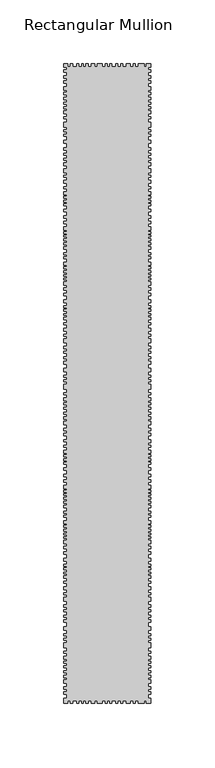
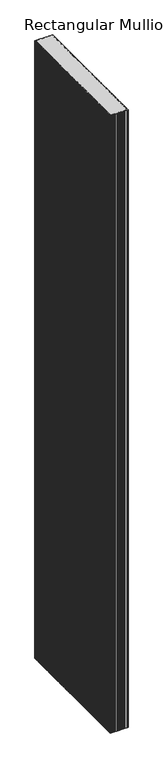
"""IFC4 building model written with IfcOpenShell, lengths in millimetres: member geometry, Rectangular Mullion : DucoSun Cubic Design louvre 500."""

from ifc_helpers import new_model, si_unit, frame, origin, place, context, project, spatial, polyline, outline, extrude, source, transform, mapped, element, save


def rectangular_mullion_8edc9b5f(model_context):
    return source(origin(), model_context, "Body", "SweptSolid", [
        extrude(outline(polyline([(34.0, 497.3782451), (32.0, 497.3782451), (32.0, 495.4241521), (34.0, 495.4241521), (34.0, 493.6532553), (32.0, 493.6532553), (32.0, 490.9460223), (34.0, 490.9460223), (34.0, 488.9105087), (32.0, 488.9105087), (32.0, 486.7121541), (34.0, 486.7121541), (34.0, 485.0023227), (32.0, 485.0023227), (32.0, 482.3561551), (34.0, 482.3561551), (34.0, 479.3843053), (32.0, 479.3843053), (32.0, 477.8917893), (34.0, 477.8917893), (34.0, 475.8425117), (32.0, 475.8425117), (32.0, 473.8680636), (34.0, 473.8680636), (34.0, 472.1582322), (32.0, 472.1582322), (32.0, 470.0820083), (34.0, 470.0820083), (34.0, 468.3111116), (32.0, 468.3111116), (32.0, 466.4995045), (34.0, 466.4995045), (34.0, 465.0713495), (32.0, 465.0713495), (32.0, 463.4577392), (34.0, 463.4577392), (34.0, 461.0328231), (32.0, 461.0328231), (32.0, 458.5725067), (34.0, 458.5725067), (34.0, 457.0325964), (32.0, 457.0325964), (32.0, 454.5014796), (34.0, 454.5014796), (34.0, 450.4127524), (32.0, 450.4127524), (32.0, 448.4126391), (34.0, 448.4126391), (34.0, 446.8373286), (32.0, 446.8373286), (32.0, 444.9965163), (34.0, 444.9965163), (34.0, 443.3504053), (32.0, 443.3504053), (32.0, 440.3767855), (34.0, 440.3767855), (34.0, 437.9545244), (32.0, 437.9545244), (32.0, 434.5552168), (34.0, 434.5552168), (34.0, 432.5197032), (32.0, 432.5197032), (32.0, 430.239928), (34.0, 430.239928), (34.0, 428.6929377), (32.0, 428.6929377), (32.0, 426.4335177), (34.0, 426.4335177), (34.0, 424.5608452), (32.0, 424.5608452), (32.0, 422.6271073), (34.0, 422.6271073), (34.0, 420.5508835), (32.0, 420.5508835), (32.0, 418.0064916), (34.0, 418.0064916), (34.0, 414.9328661), (32.0, 414.9328661), (32.0, 412.9177077), (34.0, 412.9177077), (34.0, 411.4114277), (32.0, 411.4114277), (32.0, 408.9688114), (34.0, 408.9688114), (34.0, 406.7118273), (32.0, 406.7118273), (32.0, 403.8852623), (34.0, 403.8852623), (34.0, 402.4316003), (32.0, 402.4316003), (32.0, 399.9011516), (34.0, 399.9011516), (34.0, 397.8552569), (32.0, 397.8552569), (32.0, 396.6169522), (34.0, 396.6169522), (34.0, 395.0825312), (32.0, 395.0825312), (32.0, 393.4673512), (34.0, 393.4673512), (34.0, 392.0675286), (32.0, 392.0675286), (32.0, 390.5869469), (34.0, 390.5869469), (34.0, 389.1602046), (32.0, 389.1602046), (32.0, 386.3310055), (34.0, 386.3310055), (34.0, 384.2608252), (32.0, 384.2608252), (32.0, 381.1919832), (34.0, 381.1919832), (34.0, 379.2537672), (32.0, 379.2537672), (32.0, 376.9360418), (34.0, 376.9360418), (34.0, 375.0004598), (32.0, 375.0004598), (32.0, 372.9007258), (34.0, 372.9007258), (34.0, 370.1010805), (32.0, 370.1010805), (32.0, 368.8089365), (34.0, 368.8089365), (34.0, 367.3014351), (32.0, 367.3014351), (32.0, 366.0362108), (34.0, 366.0362108), (34.0, 365.0401831), (32.0, 365.0401831), (32.0, 363.2096458), (34.0, 363.2096458), (34.0, 361.6483051), (32.0, 361.6483051), (32.0, 360.1408038), (34.0, 360.1408038), (34.0, 358.6063828), (32.0, 358.6063828), (32.0, 357.0719618), (34.0, 357.0719618), (34.0, 355.0799064), (32.0, 355.0799064), (32.0, 352.3762692), (34.0, 352.3762692), (34.0, 350.8903036), (32.0, 350.8903036), (32.0, 349.1257194), (34.0, 349.1257194), (34.0, 347.6087962), (32.0, 347.6087962), (32.0, 344.8535683), (34.0, 344.8535683), (34.0, 342.7484504), (32.0, 342.7484504), (32.0, 341.4172729), (34.0, 341.4172729), (34.0, 339.9622649), (32.0, 339.9622649), (32.0, 338.3524688), (34.0, 338.3524688), (34.0, 336.8355456), (32.0, 336.8355456), (32.0, 335.1947919), (34.0, 335.1947919), (34.0, 333.9255296), (32.0, 333.9255296), (32.0, 332.5014792), (34.0, 332.5014792), (34.0, 331.1083865), (32.0, 331.1083865), (32.0, 329.6843361), (34.0, 329.6843361), (34.0, 327.0529387), (32.0, 327.0529387), (32.0, 324.9787784), (34.0, 324.9787784), (34.0, 323.0284485), (32.0, 323.0284485), (32.0, 320.7995001), (34.0, 320.7995001), (34.0, 318.8182126), (32.0, 318.8182126), (32.0, 315.6914933), (34.0, 315.6914933), (34.0, 313.4935025), (32.0, 313.4935025), (32.0, 310.954978), (34.0, 310.954978), (34.0, 309.4070971), (32.0, 309.4070971), (32.0, 308.1378348), (34.0, 308.1378348), (34.0, 306.4970812), (32.0, 306.4970812), (32.0, 304.8253698), (34.0, 304.8253698), (34.0, 303.3394042), (32.0, 303.3394042), (32.0, 302.0391843), (34.0, 302.0391843), (34.0, 300.0578969), (32.0, 300.0578969), (32.0, 297.6741604), (34.0, 297.6741604), (34.0, 296.0953219), (32.0, 296.0953219), (32.0, 293.3091364), (34.0, 293.3091364), (34.0, 291.0182728), (32.0, 291.0182728), (32.0, 288.572621), (34.0, 288.572621), (34.0, 287.1485707), (32.0, 287.1485707), (32.0, 285.0124951), (34.0, 285.0124951), (34.0, 282.1643944), (32.0, 282.1643944), (32.0, 279.3782089), (34.0, 279.3782089), (34.0, 277.427879), (32.0, 277.427879), (32.0, 275.4156339), (34.0, 275.4156339), (34.0, 273.6510498), (32.0, 273.6510498), (32.0, 271.1744404), (34.0, 271.1744404), (34.0, 269.6884748), (32.0, 269.6884748), (32.0, 267.5523993), (34.0, 267.5523993), (34.0, 265.4163237), (32.0, 265.4163237), (32.0, 262.1967316), (34.0, 262.1967316), (34.0, 259.5343765), (32.0, 259.5343765), (32.0, 256.7791486), (34.0, 256.7791486), (34.0, 255.0764797), (32.0, 255.0764797), (32.0, 252.9404041), (34.0, 252.9404041), (34.0, 251.6092266), (32.0, 251.6092266), (32.0, 249.5660239), (34.0, 249.5660239), (34.0, 245.512038), (32.0, 245.512038), (32.0, 243.0030092), (34.0, 243.0030092), (34.0, 241.3312979), (32.0, 241.3312979), (32.0, 239.0404342), (34.0, 239.0404342), (34.0, 236.5638249), (32.0, 236.5638249), (32.0, 235.015944), (34.0, 235.015944), (34.0, 233.5609361), (32.0, 233.5609361), (32.0, 231.5796486), (34.0, 231.5796486), (34.0, 230.0627254), (32.0, 230.0627254), (32.0, 227.8337769), (34.0, 227.8337769), (34.0, 226.1620656), (32.0, 226.1620656), (32.0, 224.0259901), (34.0, 224.0259901), (34.0, 222.0756602), (32.0, 222.0756602), (32.0, 220.6516099), (34.0, 220.6516099), (34.0, 217.7415939), (32.0, 217.7415939), (32.0, 215.2030693), (34.0, 215.2030693), (34.0, 213.1908242), (32.0, 213.1908242), (32.0, 211.2404944), (34.0, 211.2404944), (34.0, 209.1353764), (32.0, 209.1353764), (32.0, 206.2563181), (34.0, 206.2563181), (34.0, 203.7186411), (32.0, 203.7186411), (32.0, 201.7889994), (34.0, 201.7889994), (34.0, 200.3353374), (32.0, 200.3353374), (32.0, 197.8048887), (34.0, 197.8048887), (34.0, 195.758994), (32.0, 195.758994), (32.0, 194.5206893), (34.0, 194.5206893), (34.0, 192.9862683), (32.0, 192.9862683), (32.0, 191.3710883), (34.0, 191.3710883), (34.0, 189.9712657), (32.0, 189.9712657), (32.0, 188.490684), (34.0, 188.490684), (34.0, 187.0639417), (32.0, 187.0639417), (32.0, 184.2347426), (34.0, 184.2347426), (34.0, 182.1645623), (32.0, 182.1645623), (32.0, 179.0957203), (34.0, 179.0957203), (34.0, 177.1575043), (32.0, 177.1575043), (32.0, 174.8397789), (34.0, 174.8397789), (34.0, 172.9041969), (32.0, 172.9041969), (32.0, 170.8044629), (34.0, 170.8044629), (34.0, 168.0048176), (32.0, 168.0048176), (32.0, 166.7126736), (34.0, 166.7126736), (34.0, 165.2051722), (32.0, 165.2051722), (32.0, 163.9399479), (34.0, 163.9399479), (34.0, 162.9439202), (32.0, 162.9439202), (32.0, 161.1133829), (34.0, 161.1133829), (34.0, 159.5520422), (32.0, 159.5520422), (32.0, 158.0445409), (34.0, 158.0445409), (34.0, 156.5101199), (32.0, 156.5101199), (32.0, 154.9756989), (34.0, 154.9756989), (34.0, 152.9836435), (32.0, 152.9836435), (32.0, 150.2800063), (34.0, 150.2800063), (34.0, 148.7940407), (32.0, 148.7940407), (32.0, 147.0294565), (34.0, 147.0294565), (34.0, 145.5125333), (32.0, 145.5125333), (32.0, 142.7573054), (34.0, 142.7573054), (34.0, 140.6521875), (32.0, 140.6521875), (32.0, 139.32101), (34.0, 139.32101), (34.0, 137.866002), (32.0, 137.866002), (32.0, 136.2562059), (34.0, 136.2562059), (34.0, 134.7392827), (32.0, 134.7392827), (32.0, 133.098529), (34.0, 133.098529), (34.0, 131.8292667), (32.0, 131.8292667), (32.0, 130.4052163), (34.0, 130.4052163), (34.0, 129.0121236), (32.0, 129.0121236), (32.0, 127.5880732), (34.0, 127.5880732), (34.0, 124.9566758), (32.0, 124.9566758), (32.0, 122.8825155), (34.0, 122.8825155), (34.0, 120.9321856), (32.0, 120.9321856), (32.0, 118.7032372), (34.0, 118.7032372), (34.0, 116.7219497), (32.0, 116.7219497), (32.0, 113.5952304), (34.0, 113.5952304), (34.0, 111.3972396), (32.0, 111.3972396), (32.0, 108.8587151), (34.0, 108.8587151), (34.0, 107.3108342), (32.0, 107.3108342), (32.0, 106.0415719), (34.0, 106.0415719), (34.0, 104.4008183), (32.0, 104.4008183), (32.0, 102.7291069), (34.0, 102.7291069), (34.0, 101.2431413), (32.0, 101.2431413), (32.0, 99.9429214), (34.0, 99.9429214), (34.0, 97.961634), (32.0, 97.961634), (32.0, 95.5778975), (34.0, 95.5778975), (34.0, 93.999059), (32.0, 93.999059), (32.0, 91.2128735), (34.0, 91.2128735), (34.0, 88.9220099), (32.0, 88.9220099), (32.0, 86.4763581), (34.0, 86.4763581), (34.0, 85.0523078), (32.0, 85.0523078), (32.0, 82.9162322), (34.0, 82.9162322), (34.0, 80.0681315), (32.0, 80.0681315), (32.0, 77.281946), (34.0, 77.281946), (34.0, 75.3316161), (32.0, 75.3316161), (32.0, 73.319371), (34.0, 73.319371), (34.0, 71.5547869), (32.0, 71.5547869), (32.0, 69.0781775), (34.0, 69.0781775), (34.0, 67.5922119), (32.0, 67.5922119), (32.0, 65.4561364), (34.0, 65.4561364), (34.0, 63.3200608), (32.0, 63.3200608), (32.0, 60.1004687), (34.0, 60.1004687), (34.0, 57.4381136), (32.0, 57.4381136), (32.0, 54.6828857), (34.0, 54.6828857), (34.0, 52.9802168), (32.0, 52.9802168), (32.0, 50.8441412), (34.0, 50.8441412), (34.0, 49.5129637), (32.0, 49.5129637), (32.0, 47.469761), (34.0, 47.469761), (34.0, 43.4157751), (32.0, 43.4157751), (32.0, 40.9067463), (34.0, 40.9067463), (34.0, 39.235035), (32.0, 39.235035), (32.0, 36.9441713), (34.0, 36.9441713), (34.0, 34.467562), (32.0, 34.467562), (32.0, 32.9196811), (34.0, 32.9196811), (34.0, 31.4646731), (32.0, 31.4646731), (32.0, 29.4833857), (34.0, 29.4833857), (34.0, 27.9664625), (32.0, 27.9664625), (32.0, 25.737514), (34.0, 25.737514), (34.0, 24.0658027), (32.0, 24.0658027), (32.0, 21.9297272), (34.0, 21.9297272), (34.0, 19.9793973), (32.0, 19.9793973), (32.0, 18.555347), (34.0, 18.555347), (34.0, 15.645331), (32.0, 15.645331), (32.0, 13.1068064), (34.0, 13.1068064), (34.0, 11.0945613), (32.0, 11.0945613), (32.0, 9.1442315), (34.0, 9.1442315), (34.0, 7.0391135), (32.0, 7.0391135), (32.0, 4.0), (34.0, 4.0), (34.0, 0.0), (30.4544414, 0.0), (30.4544414, 2.0), (28.627942, 2.0), (28.627942, 0.0), (23.9842994, 0.0), (23.9842994, 2.0), (21.8172663, 2.0), (21.8172663, 0.0), (20.3003431, 0.0), (20.3003431, 2.0), (17.9475642, 2.0), (17.9475642, 0.0), (14.8827601, 0.0), (14.8827601, 2.0), (12.0965746, 2.0), (12.0965746, 0.0), (10.3939057, 0.0), (10.3939057, 2.0), (8.0101692, 2.0), (8.0101692, 0.0), (6.5242036, 0.0), (6.5242036, 2.0), (3.4884678, 2.0), (3.4884678, 0.0), (1.7094289, 0.0), (1.7094289, 2.0), (0.0, 2.0), (0.0, 0.0), (-1.8486488, 0.0), (-1.8486488, 2.0), (-4.2128978, 2.0), (-4.2128978, 0.0), (-7.9816511, 0.0), (-7.9816511, 2.0), (-10.0415908, 2.0), (-10.0415908, 0.0), (-12.7335575, 0.0), (-12.7335575, 2.0), (-15.0041729, 2.0), (-15.0041729, 0.0), (-16.8768453, 0.0), (-16.8768453, 2.0), (-18.9367851, 2.0), (-18.9367851, 0.0), (-20.2710642, 0.0), (-20.2710642, 2.0), (-22.3075955, 2.0), (-22.3075955, 0.0), (-23.8993671, 0.0), (-23.8993671, 2.0), (-26.9658683, 2.0), (-26.9658683, 0.0), (-28.9321744, 0.0), (-28.9321744, 2.0), (-30.8750721, 2.0), (-30.8750721, 0.0), (-34.0, 0.0), (-34.0, 4.0), (-32.0, 4.0), (-32.0, 7.0391135), (-34.0, 7.0391135), (-34.0, 9.1442315), (-32.0, 9.1442315), (-32.0, 11.0945613), (-34.0, 11.0945613), (-34.0, 13.1068064), (-32.0, 13.1068064), (-32.0, 15.645331), (-34.0, 15.645331), (-34.0, 18.555347), (-32.0, 18.555347), (-32.0, 19.9793973), (-34.0, 19.9793973), (-34.0, 21.9297272), (-32.0, 21.9297272), (-32.0, 24.0658027), (-34.0, 24.0658027), (-34.0, 25.737514), (-32.0, 25.737514), (-32.0, 27.9664625), (-34.0, 27.9664625), (-34.0, 29.4833857), (-32.0, 29.4833857), (-32.0, 31.4646731), (-34.0, 31.4646731), (-34.0, 32.9196811), (-32.0, 32.9196811), (-32.0, 34.467562), (-34.0, 34.467562), (-34.0, 36.9441713), (-32.0, 36.9441713), (-32.0, 39.235035), (-34.0, 39.235035), (-34.0, 40.9067463), (-32.0, 40.9067463), (-32.0, 43.4157751), (-34.0, 43.4157751), (-34.0, 47.469761), (-32.0, 47.469761), (-32.0, 49.5129637), (-34.0, 49.5129637), (-34.0, 50.8441412), (-32.0, 50.8441412), (-32.0, 52.9802168), (-34.0, 52.9802168), (-34.0, 54.6828857), (-32.0, 54.6828857), (-32.0, 57.4381136), (-34.0, 57.4381136), (-34.0, 60.1004687), (-32.0, 60.1004687), (-32.0, 63.3200608), (-34.0, 63.3200608), (-34.0, 65.4561364), (-32.0, 65.4561364), (-32.0, 67.5922119), (-34.0, 67.5922119), (-34.0, 69.0781775), (-32.0, 69.0781775), (-32.0, 71.5547869), (-34.0, 71.5547869), (-34.0, 73.319371), (-32.0, 73.319371), (-32.0, 75.3316161), (-34.0, 75.3316161), (-34.0, 77.281946), (-32.0, 77.281946), (-32.0, 80.0681315), (-34.0, 80.0681315), (-34.0, 82.9162322), (-32.0, 82.9162322), (-32.0, 85.0523078), (-34.0, 85.0523078), (-34.0, 86.4763581), (-32.0, 86.4763581), (-32.0, 88.9220099), (-34.0, 88.9220099), (-34.0, 91.2128735), (-32.0, 91.2128735), (-32.0, 93.999059), (-34.0, 93.999059), (-34.0, 95.5778975), (-32.0, 95.5778975), (-32.0, 97.961634), (-34.0, 97.961634), (-34.0, 99.9429214), (-32.0, 99.9429214), (-32.0, 101.2431413), (-34.0, 101.2431413), (-34.0, 102.7291069), (-32.0, 102.7291069), (-32.0, 104.4008183), (-34.0, 104.4008183), (-34.0, 106.0415719), (-32.0, 106.0415719), (-32.0, 107.3108342), (-34.0, 107.3108342), (-34.0, 108.8587151), (-32.0, 108.8587151), (-32.0, 111.3972396), (-34.0, 111.3972396), (-34.0, 113.5952304), (-32.0, 113.5952304), (-32.0, 116.7219497), (-34.0, 116.7219497), (-34.0, 118.7032372), (-32.0, 118.7032372), (-32.0, 120.9321856), (-34.0, 120.9321856), (-34.0, 122.8825155), (-32.0, 122.8825155), (-32.0, 124.9566758), (-34.0, 124.9566758), (-34.0, 127.5880732), (-32.0, 127.5880732), (-32.0, 129.0121236), (-34.0, 129.0121236), (-34.0, 130.4052163), (-32.0, 130.4052163), (-32.0, 131.8292667), (-34.0, 131.8292667), (-34.0, 133.098529), (-32.0, 133.098529), (-32.0, 134.7392827), (-34.0, 134.7392827), (-34.0, 136.2562059), (-32.0, 136.2562059), (-32.0, 137.866002), (-34.0, 137.866002), (-34.0, 139.32101), (-32.0, 139.32101), (-32.0, 140.6521875), (-34.0, 140.6521875), (-34.0, 142.7573054), (-32.0, 142.7573054), (-32.0, 145.5125333), (-34.0, 145.5125333), (-34.0, 147.0294565), (-32.0, 147.0294565), (-32.0, 148.7940407), (-34.0, 148.7940407), (-34.0, 150.2800063), (-32.0, 150.2800063), (-32.0, 152.9836435), (-34.0, 152.9836435), (-34.0, 154.9756989), (-32.0, 154.9756989), (-32.0, 156.5101199), (-34.0, 156.5101199), (-34.0, 158.0445409), (-32.0, 158.0445409), (-32.0, 159.5520422), (-34.0, 159.5520422), (-34.0, 161.1133829), (-32.0, 161.1133829), (-32.0, 162.9439202), (-34.0, 162.9439202), (-34.0, 163.9399479), (-32.0, 163.9399479), (-32.0, 165.2051722), (-34.0, 165.2051722), (-34.0, 166.7126736), (-32.0, 166.7126736), (-32.0, 168.0048176), (-34.0, 168.0048176), (-34.0, 170.8044629), (-32.0, 170.8044629), (-32.0, 172.9041969), (-34.0, 172.9041969), (-34.0, 174.8397789), (-32.0, 174.8397789), (-32.0, 177.1575043), (-34.0, 177.1575043), (-34.0, 179.0957203), (-32.0, 179.0957203), (-32.0, 182.1645623), (-34.0, 182.1645623), (-34.0, 184.2347426), (-32.0, 184.2347426), (-32.0, 187.0639417), (-34.0, 187.0639417), (-34.0, 188.490684), (-32.0, 188.490684), (-32.0, 189.9712657), (-34.0, 189.9712657), (-34.0, 191.3710883), (-32.0, 191.3710883), (-32.0, 192.9862683), (-34.0, 192.9862683), (-34.0, 194.5206893), (-32.0, 194.5206893), (-32.0, 195.758994), (-34.0, 195.758994), (-34.0, 197.8048887), (-32.0, 197.8048887), (-32.0, 200.3353374), (-34.0, 200.3353374), (-34.0, 201.7889994), (-32.0, 201.7889994), (-32.0, 204.6155644), (-34.0, 204.6155644), (-34.0, 206.2563181), (-32.0, 206.2563181), (-32.0, 209.1353764), (-34.0, 209.1353764), (-34.0, 211.2404944), (-32.0, 211.2404944), (-32.0, 213.1908242), (-34.0, 213.1908242), (-34.0, 215.2030693), (-32.0, 215.2030693), (-32.0, 217.7415939), (-34.0, 217.7415939), (-34.0, 220.6516099), (-32.0, 220.6516099), (-32.0, 222.0756602), (-34.0, 222.0756602), (-34.0, 224.0259901), (-32.0, 224.0259901), (-32.0, 226.1620656), (-34.0, 226.1620656), (-34.0, 227.8337769), (-32.0, 227.8337769), (-32.0, 230.0627254), (-34.0, 230.0627254), (-34.0, 231.5796486), (-32.0, 231.5796486), (-32.0, 233.5609361), (-34.0, 233.5609361), (-34.0, 235.015944), (-32.0, 235.015944), (-32.0, 236.5638249), (-34.0, 236.5638249), (-34.0, 239.0404342), (-32.0, 239.0404342), (-32.0, 241.3312979), (-34.0, 241.3312979), (-34.0, 243.0030092), (-32.0, 243.0030092), (-32.0, 245.512038), (-34.0, 245.512038), (-34.0, 249.5660239), (-32.0, 249.5660239), (-32.0, 251.6092266), (-34.0, 251.6092266), (-34.0, 252.9404041), (-32.0, 252.9404041), (-32.0, 255.0764797), (-34.0, 255.0764797), (-34.0, 256.7791486), (-32.0, 256.7791486), (-32.0, 259.5343765), (-34.0, 259.5343765), (-34.0, 262.1967316), (-32.0, 262.1967316), (-32.0, 265.4163237), (-34.0, 265.4163237), (-34.0, 267.5523993), (-32.0, 267.5523993), (-32.0, 269.6884748), (-34.0, 269.6884748), (-34.0, 271.1744404), (-32.0, 271.1744404), (-32.0, 273.6510498), (-34.0, 273.6510498), (-34.0, 275.4156339), (-32.0, 275.4156339), (-32.0, 277.427879), (-34.0, 277.427879), (-34.0, 279.3782089), (-32.0, 279.3782089), (-32.0, 282.1643944), (-34.0, 282.1643944), (-34.0, 285.0124951), (-32.0, 285.0124951), (-32.0, 287.1485707), (-34.0, 287.1485707), (-34.0, 288.572621), (-32.0, 288.572621), (-32.0, 291.0182728), (-34.0, 291.0182728), (-34.0, 293.3091364), (-32.0, 293.3091364), (-32.0, 296.0953219), (-34.0, 296.0953219), (-34.0, 297.6741604), (-32.0, 297.6741604), (-32.0, 300.0578969), (-34.0, 300.0578969), (-34.0, 302.0391843), (-32.0, 302.0391843), (-32.0, 303.3394042), (-34.0, 303.3394042), (-34.0, 304.8253698), (-32.0, 304.8253698), (-32.0, 306.4970812), (-34.0, 306.4970812), (-34.0, 308.1378348), (-32.0, 308.1378348), (-32.0, 309.4070971), (-34.0, 309.4070971), (-34.0, 310.954978), (-32.0, 310.954978), (-32.0, 313.4935025), (-34.0, 313.4935025), (-34.0, 315.6914933), (-32.0, 315.6914933), (-32.0, 318.8182126), (-34.0, 318.8182126), (-34.0, 320.7995001), (-32.0, 320.7995001), (-32.0, 323.0284485), (-34.0, 323.0284485), (-34.0, 324.9787784), (-32.0, 324.9787784), (-32.0, 327.0529387), (-34.0, 327.0529387), (-34.0, 329.6843361), (-32.0, 329.6843361), (-32.0, 331.1083865), (-34.0, 331.1083865), (-34.0, 332.5014792), (-32.0, 332.5014792), (-32.0, 333.9255296), (-34.0, 333.9255296), (-34.0, 335.1947919), (-32.0, 335.1947919), (-32.0, 336.8355456), (-34.0, 336.8355456), (-34.0, 338.3524688), (-32.0, 338.3524688), (-32.0, 339.9622649), (-34.0, 339.9622649), (-34.0, 341.4172729), (-32.0, 341.4172729), (-32.0, 342.7484504), (-34.0, 342.7484504), (-34.0, 344.8535683), (-32.0, 344.8535683), (-32.0, 347.6087962), (-34.0, 347.6087962), (-34.0, 349.1257194), (-32.0, 349.1257194), (-32.0, 350.8903036), (-34.0, 350.8903036), (-34.0, 352.3762692), (-32.0, 352.3762692), (-32.0, 355.0799064), (-34.0, 355.0799064), (-34.0, 357.0719618), (-32.0, 357.0719618), (-32.0, 358.6063828), (-34.0, 358.6063828), (-34.0, 360.1408038), (-32.0, 360.1408038), (-32.0, 361.6483051), (-34.0, 361.6483051), (-34.0, 363.2096458), (-32.0, 363.2096458), (-32.0, 365.0401831), (-34.0, 365.0401831), (-34.0, 366.0362108), (-32.0, 366.0362108), (-32.0, 367.3014351), (-34.0, 367.3014351), (-34.0, 368.8089365), (-32.0, 368.8089365), (-32.0, 370.1010805), (-34.0, 370.1010805), (-34.0, 372.9007258), (-32.0, 372.9007258), (-32.0, 375.0004598), (-34.0, 375.0004598), (-34.0, 376.9360418), (-32.0, 376.9360418), (-32.0, 379.2537672), (-34.0, 379.2537672), (-34.0, 381.1919832), (-32.0, 381.1919832), (-32.0, 384.2608252), (-34.0, 384.2608252), (-34.0, 386.3310055), (-32.0, 386.3310055), (-32.0, 389.1602046), (-34.0, 389.1602046), (-34.0, 390.5869469), (-32.0, 390.5869469), (-32.0, 392.0675286), (-34.0, 392.0675286), (-34.0, 393.4673512), (-32.0, 393.4673512), (-32.0, 395.0825312), (-34.0, 395.0825312), (-34.0, 396.6169522), (-32.0, 396.6169522), (-32.0, 397.8552569), (-34.0, 397.8552569), (-34.0, 399.9011516), (-32.0, 399.9011516), (-32.0, 402.4316003), (-34.0, 402.4316003), (-34.0, 403.8852623), (-32.0, 403.8852623), (-32.0, 406.7118273), (-34.0, 406.7118273), (-34.0, 408.9688114), (-32.0, 408.9688114), (-32.0, 411.4114277), (-34.0, 411.4114277), (-34.0, 412.9177077), (-32.0, 412.9177077), (-32.0, 414.9328661), (-34.0, 414.9328661), (-34.0, 418.0064916), (-32.0, 418.0064916), (-32.0, 420.5508835), (-34.0, 420.5508835), (-34.0, 422.6271073), (-32.0, 422.6271073), (-32.0, 424.5608452), (-34.0, 424.5608452), (-34.0, 426.4335177), (-32.0, 426.4335177), (-32.0, 428.6929377), (-34.0, 428.6929377), (-34.0, 430.239928), (-32.0, 430.239928), (-32.0, 432.5197032), (-34.0, 432.5197032), (-34.0, 434.5552168), (-32.0, 434.5552168), (-32.0, 437.9545244), (-34.0, 437.9545244), (-34.0, 440.3767855), (-32.0, 440.3767855), (-32.0, 443.3504053), (-34.0, 443.3504053), (-34.0, 444.9965163), (-32.0, 444.9965163), (-32.0, 446.8373286), (-34.0, 446.8373286), (-34.0, 448.4126391), (-32.0, 448.4126391), (-32.0, 450.4127524), (-34.0, 450.4127524), (-34.0, 454.5014796), (-32.0, 454.5014796), (-32.0, 457.0325964), (-34.0, 457.0325964), (-34.0, 458.5725067), (-32.0, 458.5725067), (-32.0, 461.0328231), (-34.0, 461.0328231), (-34.0, 463.4577392), (-32.0, 463.4577392), (-32.0, 465.0713495), (-34.0, 465.0713495), (-34.0, 466.4995045), (-32.0, 466.4995045), (-32.0, 468.3111116), (-34.0, 468.3111116), (-34.0, 470.0820083), (-32.0, 470.0820083), (-32.0, 472.1582322), (-34.0, 472.1582322), (-34.0, 473.8680636), (-32.0, 473.8680636), (-32.0, 475.8425117), (-34.0, 475.8425117), (-34.0, 477.8917893), (-32.0, 477.8917893), (-32.0, 479.3843053), (-34.0, 479.3843053), (-34.0, 482.3561551), (-32.0, 482.3561551), (-32.0, 485.0023227), (-34.0, 485.0023227), (-34.0, 486.7121541), (-32.0, 486.7121541), (-32.0, 488.9105087), (-34.0, 488.9105087), (-34.0, 490.9460223), (-32.0, 490.9460223), (-32.0, 493.6532553), (-34.0, 493.6532553), (-34.0, 495.4241521), (-32.0, 495.4241521), (-32.0, 497.3782451), (-34.0, 497.3782451), (-34.0, 500.0), (-30.8750721, 500.0), (-30.8750721, 498.0), (-28.9321744, 498.0), (-28.9321744, 500.0), (-26.9658683, 500.0), (-26.9658683, 498.0), (-23.8993671, 498.0), (-23.8993671, 500.0), (-22.3075955, 500.0), (-22.3075955, 498.0), (-20.2710642, 498.0), (-20.2710642, 500.0), (-18.9367851, 500.0), (-18.9367851, 498.0), (-16.8768453, 498.0), (-16.8768453, 500.0), (-15.0041729, 500.0), (-15.0041729, 498.0), (-12.7335575, 498.0), (-12.7335575, 500.0), (-10.0415908, 500.0), (-10.0415908, 498.0), (-7.9816511, 498.0), (-7.9816511, 500.0), (-4.2128978, 500.0), (-4.2128978, 498.0), (-1.8486488, 498.0), (-1.8486488, 500.0), (0.0, 500.0), (0.0, 498.0), (1.7094289, 498.0), (1.7094289, 500.0), (3.4884678, 500.0), (3.4884678, 498.0), (6.5242036, 498.0), (6.5242036, 500.0), (8.0101692, 500.0), (8.0101692, 498.0), (10.3939057, 498.0), (10.3939057, 500.0), (12.0965746, 500.0), (12.0965746, 498.0), (14.8827601, 498.0), (14.8827601, 500.0), (17.9475642, 500.0), (17.9475642, 498.0), (20.3003431, 498.0), (20.3003431, 500.0), (21.8172663, 500.0), (21.8172663, 498.0), (23.9842994, 498.0), (23.9842994, 500.0), (28.627942, 500.0), (28.627942, 498.0), (30.4544414, 498.0), (30.4544414, 500.0), (34.0, 500.0), (34.0, 497.3782451)])), frame((0.0, 0.0, -2500.0), z_axis=(0.0, 0.0, 1.0), x_axis=(1.0, 0.0, 0.0)), (0.0, 0.0, 1.0), 2500.0),
    ])


if __name__ == "__main__":
    model = new_model("IFC4")
    model_context = context("Model", 3, world=origin())
    ifc_project = project(units=[si_unit("LENGTHUNIT", "METRE", prefix="MILLI")], contexts=[model_context])
    site = spatial("IfcSite", under=ifc_project)
    building = spatial("IfcBuilding", under=site)
    placement = place(None, origin())
    rectangular_mullion_shape = rectangular_mullion_8edc9b5f(model_context)
    element("IfcMember", 1, ObjectType="Rectangular Mullion : DucoSun Cubic Design louvre 500", at=placement, inside=building, context=model_context, shape_type="MappedRepresentation", body=[
        mapped(rectangular_mullion_shape, transform((0.0, 0.0, 0.0), x_axis=(1.0, 0.0, 0.0), y_axis=(0.0, 1.0, 0.0), z_axis=(0.0, 0.0, 1.0))),
    ])
    save(model, "model.ifc")
